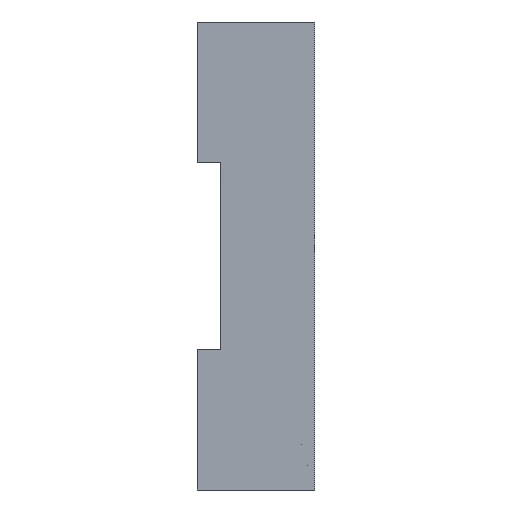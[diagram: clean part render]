
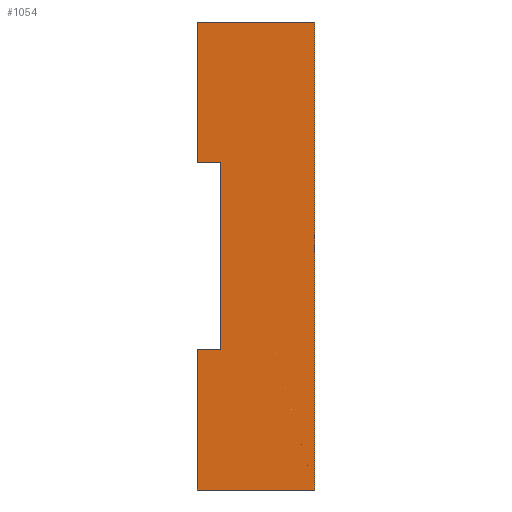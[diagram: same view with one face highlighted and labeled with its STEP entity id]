
A CAD part, left-side view. The second image highlights one B-rep face of the part: STEP entity #1054.
In plain terms, the highlighted planar face has unit normal (-1, 0, 0).
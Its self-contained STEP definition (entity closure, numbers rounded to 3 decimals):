
#84 = CARTESIAN_POINT ( 'NONE',  ( -32., 8., -20. ) ) ;
#93 = PLANE ( 'NONE',  #1004 ) ;
#95 = DIRECTION ( 'NONE',  ( 1., 0., 0. ) ) ;
#96 = DIRECTION ( 'NONE',  ( 0., 0., -1. ) ) ;
#194 = EDGE_CURVE ( 'NONE', #341, #336, #1344, .T. ) ;
#312 = EDGE_CURVE ( 'NONE', #365, #383, #1478, .T. ) ;
#317 = EDGE_CURVE ( 'NONE', #335, #383, #1487, .T. ) ;
#318 = EDGE_CURVE ( 'NONE', #368, #335, #1488, .T. ) ;
#319 = EDGE_CURVE ( 'NONE', #368, #336, #1490, .T. ) ;
#320 = EDGE_CURVE ( 'NONE', #370, #341, #1492, .T. ) ;
#321 = EDGE_CURVE ( 'NONE', #351, #370, #1494, .T. ) ;
#322 = EDGE_CURVE ( 'NONE', #351, #365, #1496, .T. ) ;
#335 = VERTEX_POINT ( 'NONE', #664 ) ;
#336 = VERTEX_POINT ( 'NONE', #650 ) ;
#341 = VERTEX_POINT ( 'NONE', #668 ) ;
#351 = VERTEX_POINT ( 'NONE', #678 ) ;
#365 = VERTEX_POINT ( 'NONE', #692 ) ;
#368 = VERTEX_POINT ( 'NONE', #695 ) ;
#370 = VERTEX_POINT ( 'NONE', #697 ) ;
#383 = VERTEX_POINT ( 'NONE', #710 ) ;
#389 = EDGE_LOOP ( 'NONE', ( #1145, #562, #577, #1210, #1183, #616, #580, #1211 ) ) ;
#562 = ORIENTED_EDGE ( 'NONE', *, *, #317, .F. ) ;
#577 = ORIENTED_EDGE ( 'NONE', *, *, #318, .F. ) ;
#580 = ORIENTED_EDGE ( 'NONE', *, *, #321, .F. ) ;
#616 = ORIENTED_EDGE ( 'NONE', *, *, #320, .F. ) ;
#650 = CARTESIAN_POINT ( 'NONE',  ( -32., 8., 8. ) ) ;
#664 = CARTESIAN_POINT ( 'NONE',  ( -32., 10., 20. ) ) ;
#668 = CARTESIAN_POINT ( 'NONE',  ( -32., 8., -8. ) ) ;
#678 = CARTESIAN_POINT ( 'NONE',  ( -32., 10., -20. ) ) ;
#692 = CARTESIAN_POINT ( 'NONE',  ( -32., 0., -20. ) ) ;
#695 = CARTESIAN_POINT ( 'NONE',  ( -32., 10., 8. ) ) ;
#697 = CARTESIAN_POINT ( 'NONE',  ( -32., 10., -8. ) ) ;
#710 = CARTESIAN_POINT ( 'NONE',  ( -32., 0., 20. ) ) ;
#876 = CARTESIAN_POINT ( 'NONE',  ( -32., 0., -20. ) ) ;
#877 = DIRECTION ( 'NONE',  ( 0., 0., 1. ) ) ;
#881 = DIRECTION ( 'NONE',  ( 0., -1., 0. ) ) ;
#886 = CARTESIAN_POINT ( 'NONE',  ( -32., 8., 20. ) ) ;
#895 = CARTESIAN_POINT ( 'NONE',  ( -32., 10., 20. ) ) ;
#896 = DIRECTION ( 'NONE',  ( 0., 0., 1. ) ) ;
#897 = CARTESIAN_POINT ( 'NONE',  ( -32., 10., 8. ) ) ;
#898 = DIRECTION ( 'NONE',  ( 0., -1., 0. ) ) ;
#899 = CARTESIAN_POINT ( 'NONE',  ( -32., 10., -8. ) ) ;
#900 = DIRECTION ( 'NONE',  ( 0., -1., 0. ) ) ;
#901 = CARTESIAN_POINT ( 'NONE',  ( -32., 10., -20. ) ) ;
#902 = DIRECTION ( 'NONE',  ( 0., 0., 1. ) ) ;
#903 = CARTESIAN_POINT ( 'NONE',  ( -32., 8., -20. ) ) ;
#904 = DIRECTION ( 'NONE',  ( 0., -1., 0. ) ) ;
#1004 = AXIS2_PLACEMENT_3D ( 'NONE', #84, #95, #96 ) ;
#1054 = ADVANCED_FACE ( 'NONE', ( #1605 ), #93, .F. ) ;
#1145 = ORIENTED_EDGE ( 'NONE', *, *, #312, .T. ) ;
#1183 = ORIENTED_EDGE ( 'NONE', *, *, #194, .F. ) ;
#1210 = ORIENTED_EDGE ( 'NONE', *, *, #319, .T. ) ;
#1211 = ORIENTED_EDGE ( 'NONE', *, *, #322, .T. ) ;
#1344 = LINE ( 'NONE', #1882, #1351 ) ;
#1351 = VECTOR ( 'NONE', #1892, 1000. ) ;
#1478 = LINE ( 'NONE', #876, #1480 ) ;
#1480 = VECTOR ( 'NONE', #877, 1000. ) ;
#1487 = LINE ( 'NONE', #886, #1489 ) ;
#1488 = LINE ( 'NONE', #895, #1491 ) ;
#1489 = VECTOR ( 'NONE', #881, 1000. ) ;
#1490 = LINE ( 'NONE', #897, #1493 ) ;
#1491 = VECTOR ( 'NONE', #896, 1000. ) ;
#1492 = LINE ( 'NONE', #899, #1495 ) ;
#1493 = VECTOR ( 'NONE', #898, 1000. ) ;
#1494 = LINE ( 'NONE', #901, #1497 ) ;
#1495 = VECTOR ( 'NONE', #900, 1000. ) ;
#1496 = LINE ( 'NONE', #903, #1499 ) ;
#1497 = VECTOR ( 'NONE', #902, 1000. ) ;
#1499 = VECTOR ( 'NONE', #904, 1000. ) ;
#1605 = FACE_OUTER_BOUND ( 'NONE', #389, .T. ) ;
#1882 = CARTESIAN_POINT ( 'NONE',  ( -32., 8., -20. ) ) ;
#1892 = DIRECTION ( 'NONE',  ( 0., 0., 1. ) ) ;
